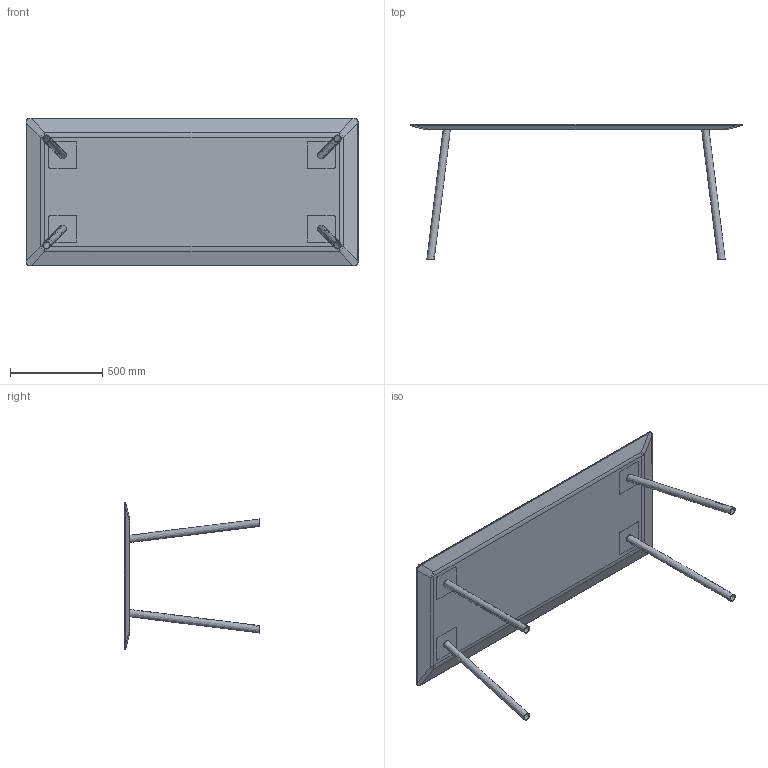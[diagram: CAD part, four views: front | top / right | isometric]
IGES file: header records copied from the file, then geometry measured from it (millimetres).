
Start section: SolidWorks IGES file using NURBS representation for surfaces
Global section: file name: W:\01-VICCARBE\PRODUCTOS\48-MAARTEN MESA\04-MODELADOS (PLANOS)\2-WEB\Piezas\IGS\VICCARBE_Maarten_180x80.IGS; native system: SolidWorks 2013; preprocessor: SolidWorks 2013; author: Usuario; date: 140904.103339; units: millimetre
Bounding box: 1800 x 734 x 800 mm (x, y, z)
Surface area: 3809912.7 mm2 (no closed solid volume)
Topology: 0 solids, 0 shells, 110 faces, 512 edges, 496 vertices
Faces by surface type: bspline 110
